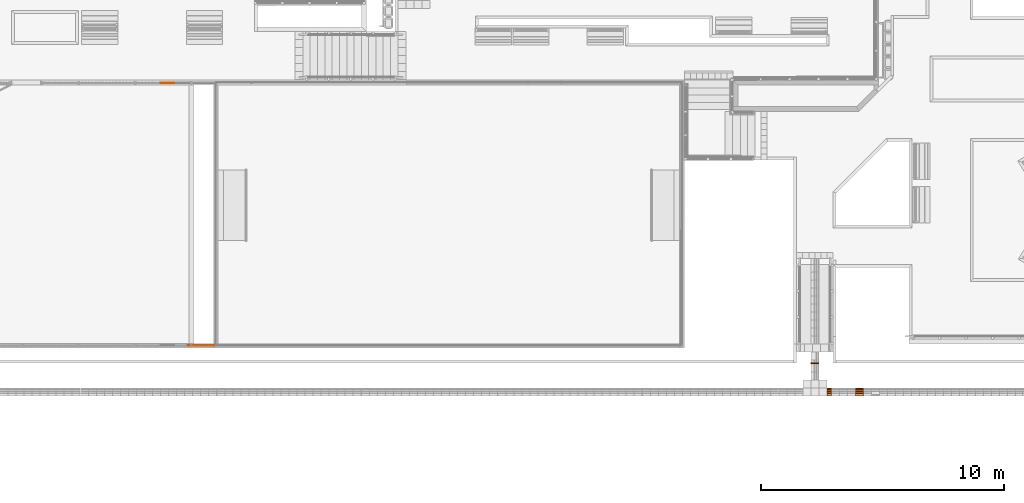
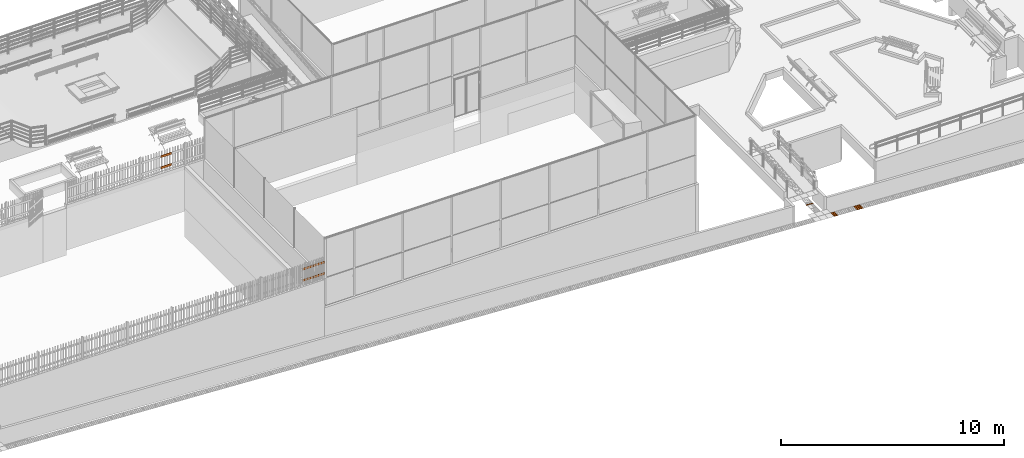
# One storey, part 220 of 237: 9 proxies.
"""IFC2X3 building model written with IfcOpenShell, lengths in millimetres."""

import ifcopenshell
import ifcopenshell.guid

model = None  # the IFC model being written
_history = None  # IfcOwnerHistory: only IFC2X3 demands one
_inside = {}  # id of a spatial element -> (the spatial element, [elements in it])
_under = {}  # id of a project, library or spatial element -> (it, [spatial elements below it])
_declared = {}  # id of a project -> (the project, [libraries it declares])
_typed = {}  # id of a type object -> (the type object, [elements of that type])
_made_of = {}  # id of a material, layer set ... -> (it, [elements and type objects made of it])


def new_model(schema):
    """Start an empty IFC model of exactly this schema.

    Asked for "IFC4X3", IfcOpenShell would pick the latest addendum, in which some entities
    have other attributes; the version numbers below select the first issue.
    IFC2X3 requires an IfcOwnerHistory on every rooted entity: one is made here for all.
    """
    global model, _history
    if schema == "IFC4X3":
        model = ifcopenshell.file(schema_version=(4, 3, 0, 0))
    else:
        model = ifcopenshell.file(schema=schema)
    _inside.clear()
    _under.clear()
    _declared.clear()
    _typed.clear()
    _made_of.clear()
    _history = None
    if model.schema == "IFC2X3":
        org = make("IfcOrganization", Name="unknown")
        user = make(
            "IfcPersonAndOrganization",
            ThePerson=make("IfcPerson", FamilyName="unknown"),
            TheOrganization=org,
        )
        app = make(
            "IfcApplication",
            ApplicationDeveloper=org,
            Version="unknown",
            ApplicationFullName="unknown",
            ApplicationIdentifier="unknown",
        )
        _history = make(
            "IfcOwnerHistory",
            OwningUser=user,
            OwningApplication=app,
            ChangeAction="ADDED",
            CreationDate=0,
        )
    return model


def make(cls, **values):
    """One entity of the class cls with the attributes given. An attribute that is None is left unset."""
    return model.create_entity(
        cls, **{name: value for name, value in values.items() if value is not None}
    )


def entity(cls, *values):
    """Any entity or typed value of the class cls, its attributes in the order of the schema. None: left unset."""
    e = model.create_entity(cls)
    for i, value in enumerate(values):
        if value is not None:
            e[i] = value
    return e


def rooted(cls, **values):
    """An entity with a GlobalId (a new one), such as an element, a storey or a relation."""
    return make(cls, GlobalId=ifcopenshell.guid.new(), OwnerHistory=_history, **values)


def si_unit(unit_type, name, prefix=None):
    """IfcSIUnit, for example si_unit("LENGTHUNIT", "METRE", prefix="MILLI")."""
    return make("IfcSIUnit", UnitType=unit_type, Prefix=prefix, Name=name)


def converted_unit(unit_type, name, factor, base, dimensions=None, offset=None):
    """IfcConversionBasedUnit, such as the inch: factor (a typed value) times the base unit."""
    return make(
        "IfcConversionBasedUnit"
        if offset is None
        else "IfcConversionBasedUnitWithOffset",
        ConversionOffset=offset,
        Dimensions=None
        if dimensions is None
        else entity("IfcDimensionalExponents", *dimensions),
        UnitType=unit_type,
        Name=name,
        ConversionFactor=make(
            "IfcMeasureWithUnit", ValueComponent=factor, UnitComponent=base
        ),
    )


def derived_unit(unit_type, elements):
    """IfcDerivedUnit: a product of units, each with its exponent."""
    return make(
        "IfcDerivedUnit",
        Elements=[
            make("IfcDerivedUnitElement", Unit=unit, Exponent=power)
            for unit, power in elements
        ],
        UnitType=unit_type,
    )


def money_unit(currency):
    """IfcMonetaryUnit."""
    return make("IfcMonetaryUnit", Currency=currency)


def assignment(units):
    """IfcUnitAssignment: the units of a project."""
    return None if units is None else make("IfcUnitAssignment", Units=units)


def point(xyz):
    """IfcCartesianPoint."""
    return None if xyz is None else make("IfcCartesianPoint", Coordinates=xyz)


def direction(xyz):
    """IfcDirection."""
    return None if xyz is None else make("IfcDirection", DirectionRatios=xyz)


def frame(location, z_axis=None, x_axis=None):
    """IfcAxis2Placement3D, a coordinate frame: its origin and axes. An axis left out is left unset."""
    return make(
        "IfcAxis2Placement3D",
        Location=point(location),
        Axis=direction(z_axis),
        RefDirection=direction(x_axis),
    )


def origin_with_axes():
    """The frame at (0, 0, 0) with the z axis (0, 0, 1) and the x axis (1, 0, 0) written out."""
    return frame((0.0, 0.0, 0.0), z_axis=(0.0, 0.0, 1.0), x_axis=(1.0, 0.0, 0.0))


def place(relative_to, where):
    """IfcLocalPlacement: puts the frame where relative to a parent placement (None: the world)."""
    return make(
        "IfcLocalPlacement", PlacementRelTo=relative_to, RelativePlacement=where
    )


def context(
    kind, dimensions, precision=None, world=None, true_north=None, identifier=None
):
    """IfcGeometricRepresentationContext, for example the 3D "Model" context."""
    return make(
        "IfcGeometricRepresentationContext",
        ContextIdentifier=identifier,
        ContextType=kind,
        CoordinateSpaceDimension=dimensions,
        Precision=precision,
        WorldCoordinateSystem=world,
        TrueNorth=true_north,
    )


def subcontext(parent, identifier, kind, view, scale=None):
    """IfcGeometricRepresentationSubContext, for example "Body" below "Model"."""
    return make(
        "IfcGeometricRepresentationSubContext",
        ContextIdentifier=identifier,
        ContextType=kind,
        ParentContext=parent,
        TargetScale=scale,
        TargetView=view,
    )


def project(units=None, contexts=None):
    """IfcProject with its units and contexts."""
    return rooted(
        "IfcProject",
        Name="project",
        RepresentationContexts=contexts,
        UnitsInContext=assignment(units),
    )


def spatial(cls, under=None, at=None, **own):
    """A site, building, storey or space (cls), placed at a placement, below another one or the project."""
    s = rooted(cls, ObjectPlacement=at, **own)
    if under is not None:
        _under.setdefault(under.id(), (under, []))[1].append(s)
    return s


def faces_of(points, faces, orient=None, outer=None):
    """IfcFace entities. A face is a list of loops; a loop is a list of indices into points, from 0.

    orient and outer hold one flag for each loop. By default every Orientation is true, the
    first loop of a face is its IfcFaceOuterBound and the others are IfcFaceBound.
    """
    made = []
    for i, loops in enumerate(faces):
        bounds = []
        for j, loop in enumerate(loops):
            is_outer = j == 0 if outer is None else outer[i][j]
            bounds.append(
                make(
                    "IfcFaceOuterBound" if is_outer else "IfcFaceBound",
                    Bound=make("IfcPolyLoop", Polygon=[points[k] for k in loop]),
                    Orientation=True if orient is None else orient[i][j],
                )
            )
        made.append(make("IfcFace", Bounds=bounds))
    return made


def open_shell(faces, orient=None, outer=None):
    """The faces of one IfcOpenShell. surface_model builds it on its shared points."""
    return ("IfcOpenShell", faces, orient, outer)


def faceted_brep(points, faces, orient=None, outer=None, voids=None):
    """IfcFacetedBrep: a solid bounded by flat faces; with voids (closed shells), ...WithVoids."""
    shared = [point(p) for p in points]
    hull = make("IfcClosedShell", CfsFaces=faces_of(shared, faces, orient, outer))
    if voids is None:
        return make("IfcFacetedBrep", Outer=hull)
    return make(
        "IfcFacetedBrepWithVoids",
        Outer=hull,
        Voids=[
            make(cls, CfsFaces=faces_of(shared, fs, o, b)) for cls, fs, o, b in voids
        ],
    )


def surface_model(cls, points, shells):
    """IfcFaceBasedSurfaceModel or IfcShellBasedSurfaceModel (cls): surfaces that need not close."""
    shared = [point(p) for p in points]
    made = [make(c, CfsFaces=faces_of(shared, fs, o, b)) for c, fs, o, b in shells]
    if cls == "IfcFaceBasedSurfaceModel":
        return make(cls, FbsmFaces=made)
    return make(cls, SbsmBoundary=made)


def shape(context_of_items, identifier, shape_type, items):
    """IfcShapeRepresentation: the items that make up one representation, for example the "Body"."""
    return make(
        "IfcShapeRepresentation",
        ContextOfItems=context_of_items,
        RepresentationIdentifier=identifier,
        RepresentationType=shape_type,
        Items=items,
    )


def made_of(thing, what):
    """Note that an element or type object is made of a material, layer set ...; save() writes the relation."""
    if what is not None:
        _made_of.setdefault(what.id(), (what, []))[1].append(thing)
    return thing


def type_object(cls, material=None, **own):
    """A type object (cls), such as IfcWallType, which elements share."""
    return made_of(rooted(cls, **own), material)


def element(
    cls,
    number,
    at=None,
    inside=None,
    cuts=None,
    type_object=None,
    material=None,
    context=None,
    identifier="Body",
    shape_type=None,
    held_by="IfcProductDefinitionShape",
    body=None,
    shapes=None,
    **own,
):
    """One element of the class cls, such as IfcWall. Its Tag is "e" and its number.

    at: its placement. inside: the storey or other place that contains it. cuts: it is an
    opening in that element (IfcRelVoidsElement). A single representation is given by context,
    identifier, shape_type and body (its items); several are given by shapes. held_by: the class
    of the entity that holds the representations. save() writes the other relations.
    """
    e = rooted(cls, Tag="e%d" % number, ObjectPlacement=at, **own)
    if body is not None:
        shapes = [shape(context, identifier, shape_type, body)]
    if shapes is not None:
        e.Representation = make(held_by, Representations=shapes)
    if inside is not None:
        _inside.setdefault(inside.id(), (inside, []))[1].append(e)
    if cuts is not None:
        rooted(
            "IfcRelVoidsElement", RelatingBuildingElement=cuts, RelatedOpeningElement=e
        )
    if type_object is not None:
        _typed.setdefault(type_object.id(), (type_object, []))[1].append(e)
    return made_of(e, material)


def aggregate(whole, parts):
    """IfcRelAggregates: a whole, such as a stair, and the parts it consists of."""
    return rooted("IfcRelAggregates", RelatingObject=whole, RelatedObjects=parts)


def save(model, path):
    """Write the relations noted so far, then the file.

    IfcRelAggregates (storeys below a building ...), IfcRelContainedInSpatialStructure (elements
    in a storey), IfcRelDefinesByType, IfcRelAssociatesMaterial and IfcRelDeclares: one each for
    every whole, place, type object, material and project.
    """
    for whole, parts in _under.values():
        aggregate(whole, parts)
    for where, things in _inside.values():
        rooted(
            "IfcRelContainedInSpatialStructure",
            RelatedElements=things,
            RelatingStructure=where,
        )
    for kind, things in _typed.values():
        rooted("IfcRelDefinesByType", RelatedObjects=things, RelatingType=kind)
    for what, things in _made_of.values():
        rooted("IfcRelAssociatesMaterial", RelatedObjects=things, RelatingMaterial=what)
    for by, libraries in _declared.values():
        rooted("IfcRelDeclares", RelatingContext=by, RelatedDefinitions=libraries)
    model.write(path)


model = new_model("IFC2X3")

# Units and contexts
model_context = context("Model", 3, precision=0.01, world=origin_with_axes(), true_north=direction((0.0, 1.0)))
body_context = subcontext(model_context, "Body", "Model", "MODEL_VIEW")
ifc_project = project(units=[si_unit("LENGTHUNIT", "METRE", prefix="MILLI"), si_unit("AREAUNIT", "SQUARE_METRE"), si_unit("VOLUMEUNIT", "CUBIC_METRE"), converted_unit("PLANEANGLEUNIT", "DEGREE", entity("IfcPlaneAngleMeasure", 0.0174532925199), si_unit("PLANEANGLEUNIT", "RADIAN"), dimensions=[0, 0, 0, 0, 0, 0, 0]), money_unit("USD"), converted_unit("TIMEUNIT", "Year", entity("IfcTimeMeasure", 31556926.0), si_unit("TIMEUNIT", "SECOND"), dimensions=[0, 0, 1, 0, 0, 0, 0]), si_unit("MASSUNIT", "GRAM", prefix="KILO"), si_unit("THERMODYNAMICTEMPERATUREUNIT", "DEGREE_CELSIUS"), si_unit("LUMINOUSINTENSITYUNIT", "LUMEN"), si_unit("ENERGYUNIT", "JOULE", prefix="MEGA"), derived_unit("THERMALCONDUCTANCEUNIT", [(si_unit("POWERUNIT", "WATT"), 1), (si_unit("LENGTHUNIT", "METRE"), -1), (si_unit("THERMODYNAMICTEMPERATUREUNIT", "KELVIN"), -1)]), derived_unit("SPECIFICHEATCAPACITYUNIT", [(si_unit("ENERGYUNIT", "JOULE"), 1), (si_unit("MASSUNIT", "GRAM", prefix="KILO"), -1), (si_unit("THERMODYNAMICTEMPERATUREUNIT", "KELVIN"), -1)]), derived_unit("MASSDENSITYUNIT", [(si_unit("MASSUNIT", "GRAM", prefix="KILO"), 1), (si_unit("VOLUMEUNIT", "CUBIC_METRE"), -1)])], contexts=[model_context])

# Site, building, storey
site_placement = place(None, origin_with_axes())
site = spatial("IfcSite", under=ifc_project, at=site_placement, Name="Local", CompositionType="ELEMENT")
building_placement = place(site_placement, origin_with_axes())
building = spatial("IfcBuilding", under=site, at=building_placement, Name="Construção", CompositionType="ELEMENT")
storey_placement = place(building_placement, origin_with_axes())
storey = spatial("IfcBuildingStorey", under=building, at=storey_placement, Name="Pavimento Térreo", CompositionType="ELEMENT", Elevation=0.0)

# Proxies
building_element_proxy_type_1 = type_object("IfcBuildingElementProxyType", Name="Piso Direcional 27", PredefinedType="NOTDEFINED")
proxy_1_placement = place(storey_placement, frame((84125.2908196, 12022.9885605, -5339.84149169), z_axis=(0.0, 0.0, 1.0), x_axis=(0.0, -1.0, 0.0)))
element("IfcBuildingElementProxy", 1, at=proxy_1_placement, inside=storey, type_object=building_element_proxy_type_1, Name="Objeto-0055", context=body_context, shape_type="SurfaceModel", body=[
    surface_model("IfcShellBasedSurfaceModel", [(0.0, -46.9837561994, 6.48810385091), (45.3649594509, -46.9837561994, 6.48810385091), (45.3649594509, -41.0504057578, 12.8539432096), (0.0, -41.0504057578, 12.8539432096)], [open_shell([[[0, 1, 2, 3]]])]),
    surface_model("IfcShellBasedSurfaceModel", [(45.3649594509, -153.805759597, -1.28379652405), (45.3649594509, 175.744996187, -18.4971448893), (45.3649594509, 176.44048501, -5.18196283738), (45.3649594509, 154.098060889, -4.01495616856), (45.3649594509, 148.860199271, 2.9343865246), (45.3649594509, 126.51777515, 4.10139319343), (45.3649594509, 120.584424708, -2.26444616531), (45.3649594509, 70.3139704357, 0.361318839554), (45.3649594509, 65.0761088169, 7.31066153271), (45.3649594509, 42.7336846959, 8.47766820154), (45.3649594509, 36.8003342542, 2.1118288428), (45.3649594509, -13.470120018, 4.73759384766), (45.3649594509, -18.7079816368, 11.6869365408), (45.3649594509, -41.0504057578, 12.8539432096), (45.3649594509, -46.9837561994, 6.48810385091), (45.3649594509, -97.2542104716, 9.11386885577), (45.3649594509, -102.49207209, 16.0632115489), (45.3649594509, -124.834496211, 17.2302182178), (45.3649594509, -130.767846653, 10.864378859), (45.3649594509, -153.110270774, 12.0313855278)], [open_shell([[[0, 1, 2, 3, 4, 5, 6, 7, 8, 9, 10, 11, 12, 13, 14, 15, 16, 17, 18, 19]]])]),
    surface_model("IfcShellBasedSurfaceModel", [(0.0, -18.7079816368, 11.6869365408), (45.3649594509, -18.7079816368, 11.6869365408), (45.3649594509, -13.470120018, 4.73759384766), (0.0, -13.470120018, 4.73759384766)], [open_shell([[[0, 1, 2, 3]]])]),
    surface_model("IfcShellBasedSurfaceModel", [(0.0, -102.49207209, 16.0632115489), (45.3649594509, -102.49207209, 16.0632115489), (45.3649594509, -97.2542104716, 9.11386885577), (0.0, -97.2542104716, 9.11386885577)], [open_shell([[[0, 1, 2, 3]]])]),
    surface_model("IfcShellBasedSurfaceModel", [(0.0, 65.0761088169, 7.31066153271), (45.3649594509, 65.0761088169, 7.31066153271), (45.3649594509, 70.3139704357, 0.361318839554), (0.0, 70.3139704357, 0.361318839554)], [open_shell([[[0, 1, 2, 3]]])]),
    surface_model("IfcShellBasedSurfaceModel", [(0.0, 36.8003342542, 2.1118288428), (45.3649594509, 36.8003342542, 2.1118288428), (45.3649594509, 42.7336846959, 8.47766820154), (0.0, 42.7336846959, 8.47766820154)], [open_shell([[[0, 1, 2, 3]]])]),
    surface_model("IfcShellBasedSurfaceModel", [(0.0, -130.767846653, 10.864378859), (45.3649594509, -130.767846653, 10.864378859), (45.3649594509, -124.834496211, 17.2302182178), (0.0, -124.834496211, 17.2302182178)], [open_shell([[[0, 1, 2, 3]]])]),
    surface_model("IfcShellBasedSurfaceModel", [(0.0, 176.44048501, -5.18196283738), (0.0, 154.098060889, -4.01495616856), (45.3649594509, 154.098060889, -4.01495616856), (45.3649594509, 176.44048501, -5.18196283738)], [open_shell([[[0, 1, 2, 3]]])]),
    surface_model("IfcShellBasedSurfaceModel", [(0.0, 120.584424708, -2.26444616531), (45.3649594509, 120.584424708, -2.26444616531), (45.3649594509, 126.51777515, 4.10139319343), (0.0, 126.51777515, 4.10139319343)], [open_shell([[[0, 1, 2, 3]]])]),
    surface_model("IfcShellBasedSurfaceModel", [(0.0, 148.860199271, 2.9343865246), (45.3649594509, 148.860199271, 2.9343865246), (45.3649594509, 154.098060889, -4.01495616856), (0.0, 154.098060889, -4.01495616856)], [open_shell([[[0, 1, 2, 3]]])]),
    surface_model("IfcShellBasedSurfaceModel", [(0.0, 36.8003342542, 2.1118288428), (0.0, -13.470120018, 4.73759384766), (45.3649594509, -13.470120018, 4.73759384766), (45.3649594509, 36.8003342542, 2.1118288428)], [open_shell([[[0, 1, 2, 3]]])]),
    surface_model("IfcShellBasedSurfaceModel", [(0.0, 120.584424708, -2.26444616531), (0.0, 70.3139704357, 0.361318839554), (45.3649594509, 70.3139704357, 0.361318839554), (45.3649594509, 120.584424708, -2.26444616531)], [open_shell([[[0, 1, 2, 3]]])]),
    surface_model("IfcShellBasedSurfaceModel", [(0.0, 148.860199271, 2.9343865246), (0.0, 126.51777515, 4.10139319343), (45.3649594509, 126.51777515, 4.10139319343), (45.3649594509, 148.860199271, 2.9343865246)], [open_shell([[[0, 1, 2, 3]]])]),
    surface_model("IfcShellBasedSurfaceModel", [(0.0, 120.584424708, -2.26444616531), (0.0, 126.51777515, 4.10139319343), (0.0, 148.860199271, 2.9343865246), (0.0, 154.098060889, -4.01495616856), (0.0, 176.44048501, -5.18196283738), (0.0, 175.744996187, -18.4971448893), (0.0, -153.805759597, -1.28379652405), (0.0, -153.110270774, 12.0313855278), (0.0, -130.767846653, 10.864378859), (0.0, -124.834496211, 17.2302182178), (0.0, -102.49207209, 16.0632115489), (0.0, -97.2542104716, 9.11386885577), (0.0, -46.9837561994, 6.48810385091), (0.0, -41.0504057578, 12.8539432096), (0.0, -18.7079816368, 11.6869365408), (0.0, -13.470120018, 4.73759384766), (0.0, 36.8003342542, 2.1118288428), (0.0, 42.7336846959, 8.47766820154), (0.0, 65.0761088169, 7.31066153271), (0.0, 70.3139704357, 0.361318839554)], [open_shell([[[0, 1, 2, 3, 4, 5, 6, 7, 8, 9, 10, 11, 12, 13, 14, 15, 16, 17, 18, 19]]])]),
    surface_model("IfcShellBasedSurfaceModel", [(45.3649594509, -41.0504057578, 12.8539432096), (45.3649594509, -18.7079816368, 11.6869365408), (0.0, -18.7079816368, 11.6869365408), (0.0, -41.0504057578, 12.8539432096)], [open_shell([[[0, 1, 2, 3]]])]),
    surface_model("IfcShellBasedSurfaceModel", [(0.0, -46.9837561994, 6.48810385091), (0.0, -97.2542104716, 9.11386885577), (45.3649594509, -97.2542104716, 9.11386885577), (45.3649594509, -46.9837561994, 6.48810385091)], [open_shell([[[0, 1, 2, 3]]])]),
    surface_model("IfcShellBasedSurfaceModel", [(45.3649594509, 42.7336846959, 8.47766820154), (45.3649594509, 65.0761088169, 7.31066153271), (0.0, 65.0761088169, 7.31066153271), (0.0, 42.7336846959, 8.47766820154)], [open_shell([[[0, 1, 2, 3]]])]),
    surface_model("IfcShellBasedSurfaceModel", [(45.3649594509, -124.834496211, 17.2302182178), (45.3649594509, -102.49207209, 16.0632115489), (0.0, -102.49207209, 16.0632115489), (0.0, -124.834496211, 17.2302182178)], [open_shell([[[0, 1, 2, 3]]])]),
    surface_model("IfcShellBasedSurfaceModel", [(45.3649594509, 175.744996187, -18.4971448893), (0.0, 175.744996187, -18.4971448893), (0.0, 176.44048501, -5.18196283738), (45.3649594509, 176.44048501, -5.18196283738)], [open_shell([[[0, 1, 2, 3]]])]),
    surface_model("IfcShellBasedSurfaceModel", [(45.3649594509, -153.805759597, -1.28379652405), (0.0, -153.805759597, -1.28379652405), (0.0, 175.744996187, -18.4971448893), (45.3649594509, 175.744996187, -18.4971448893)], [open_shell([[[0, 1, 2, 3]]])]),
    surface_model("IfcShellBasedSurfaceModel", [(45.3649594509, -153.110270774, 12.0313855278), (45.3649594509, -130.767846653, 10.864378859), (0.0, -130.767846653, 10.864378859), (0.0, -153.110270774, 12.0313855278)], [open_shell([[[0, 1, 2, 3]]])]),
    surface_model("IfcShellBasedSurfaceModel", [(0.0, -153.805759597, -1.28379652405), (45.3649594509, -153.805759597, -1.28379652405), (45.3649594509, -153.110270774, 12.0313855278), (0.0, -153.110270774, 12.0313855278)], [open_shell([[[0, 1, 2, 3]]])]),
])
proxy_2_placement = place(storey_placement, frame((84817.6977976, 10834.0941893, -5374.27197105), z_axis=(0.0, 0.0, 1.0), x_axis=(-1.0, 0.0, 0.0)))
element("IfcBuildingElementProxy", 2, at=proxy_2_placement, inside=storey, type_object=building_element_proxy_type_1, Name="Objeto-0055", context=body_context, shape_type="SurfaceModel", body=[
    surface_model("IfcShellBasedSurfaceModel", [(-0.196792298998, -47.258225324, 4.02371099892), (185.434149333, -47.258225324, 13.1025786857), (185.108484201, -41.665004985, 19.761286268), (-0.522457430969, -41.665004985, 10.6824185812)], [open_shell([[[0, 1, 2, 3]]])]),
    surface_model("IfcShellBasedSurfaceModel", [(186.085479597, -153.529411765, -0.214836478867), (186.085479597, 176.470588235, -0.214836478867), (185.434149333, 176.470588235, 13.1025786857), (185.434149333, 154.097706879, 13.1025786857), (185.108484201, 148.50448654, 19.761286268), (185.108484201, 126.131605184, 19.761286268), (185.434149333, 120.538384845, 13.1025786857), (185.434149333, 70.1994017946, 13.1025786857), (185.108484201, 64.6061814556, 19.761286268), (185.108484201, 42.2333000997, 19.761286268), (185.434149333, 36.6400797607, 13.1025786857), (185.434149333, -13.6989032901, 13.1025786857), (185.108484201, -19.2921236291, 19.761286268), (185.108484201, -41.665004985, 19.761286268), (185.434149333, -47.258225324, 13.1025786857), (185.434149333, -97.5972083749, 13.1025786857), (185.108484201, -103.190428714, 19.761286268), (185.108484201, -125.56331007, 19.761286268), (185.434149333, -131.156530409, 13.1025786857), (185.434149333, -153.529411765, 13.1025786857)], [open_shell([[[0, 1, 2, 3, 4, 5, 6, 7, 8, 9, 10, 11, 12, 13, 14, 15, 16, 17, 18, 19]]])]),
    surface_model("IfcShellBasedSurfaceModel", [(-0.522457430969, -19.2921236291, 10.6824185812), (185.108484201, -19.2921236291, 19.761286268), (185.434149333, -13.6989032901, 13.1025786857), (-0.196792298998, -13.6989032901, 4.02371099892)], [open_shell([[[0, 1, 2, 3]]])]),
    surface_model("IfcShellBasedSurfaceModel", [(-0.522457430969, -103.190428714, 10.6824185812), (185.108484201, -103.190428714, 19.761286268), (185.434149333, -97.5972083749, 13.1025786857), (-0.196792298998, -97.5972083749, 4.02371099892)], [open_shell([[[0, 1, 2, 3]]])]),
    surface_model("IfcShellBasedSurfaceModel", [(-0.522457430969, 64.6061814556, 10.6824185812), (185.108484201, 64.6061814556, 19.761286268), (185.434149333, 70.1994017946, 13.1025786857), (-0.196792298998, 70.1994017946, 4.02371099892)], [open_shell([[[0, 1, 2, 3]]])]),
    surface_model("IfcShellBasedSurfaceModel", [(-0.196792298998, 36.6400797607, 4.02371099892), (185.434149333, 36.6400797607, 13.1025786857), (185.108484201, 42.2333000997, 19.761286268), (-0.522457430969, 42.2333000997, 10.6824185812)], [open_shell([[[0, 1, 2, 3]]])]),
    surface_model("IfcShellBasedSurfaceModel", [(-0.196792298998, -131.156530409, 4.02371099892), (185.434149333, -131.156530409, 13.1025786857), (185.108484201, -125.56331007, 19.761286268), (-0.522457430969, -125.56331007, 10.6824185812)], [open_shell([[[0, 1, 2, 3]]])]),
    surface_model("IfcShellBasedSurfaceModel", [(-0.196792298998, 176.470588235, 4.02371099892), (-0.196792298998, 154.097706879, 4.02371099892), (185.434149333, 154.097706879, 13.1025786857), (185.434149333, 176.470588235, 13.1025786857)], [open_shell([[[0, 1, 2, 3]]])]),
    surface_model("IfcShellBasedSurfaceModel", [(-0.196792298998, 120.538384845, 4.02371099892), (185.434149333, 120.538384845, 13.1025786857), (185.108484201, 126.131605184, 19.761286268), (-0.522457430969, 126.131605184, 10.6824185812)], [open_shell([[[0, 1, 2, 3]]])]),
    surface_model("IfcShellBasedSurfaceModel", [(-0.522457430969, 148.50448654, 10.6824185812), (185.108484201, 148.50448654, 19.761286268), (185.434149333, 154.097706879, 13.1025786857), (-0.196792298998, 154.097706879, 4.02371099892)], [open_shell([[[0, 1, 2, 3]]])]),
    surface_model("IfcShellBasedSurfaceModel", [(-0.196792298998, 36.6400797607, 4.02371099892), (-0.196792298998, -13.6989032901, 4.02371099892), (185.434149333, -13.6989032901, 13.1025786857), (185.434149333, 36.6400797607, 13.1025786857)], [open_shell([[[0, 1, 2, 3]]])]),
    surface_model("IfcShellBasedSurfaceModel", [(-0.196792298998, 120.538384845, 4.02371099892), (-0.196792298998, 70.1994017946, 4.02371099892), (185.434149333, 70.1994017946, 13.1025786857), (185.434149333, 120.538384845, 13.1025786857)], [open_shell([[[0, 1, 2, 3]]])]),
    surface_model("IfcShellBasedSurfaceModel", [(-0.522457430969, 148.50448654, 10.6824185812), (-0.522457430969, 126.131605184, 10.6824185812), (185.108484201, 126.131605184, 19.761286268), (185.108484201, 148.50448654, 19.761286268)], [open_shell([[[0, 1, 2, 3]]])]),
    surface_model("IfcShellBasedSurfaceModel", [(-0.196792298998, 120.538384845, 4.02371099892), (-0.522457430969, 126.131605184, 10.6824185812), (-0.522457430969, 148.50448654, 10.6824185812), (-0.196792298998, 154.097706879, 4.02371099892), (-0.196792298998, 176.470588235, 4.02371099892), (0.454537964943, 176.470588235, -9.29370416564), (0.454537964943, -153.529411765, -9.29370416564), (-0.196792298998, -153.529411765, 4.02371099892), (-0.196792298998, -131.156530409, 4.02371099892), (-0.522457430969, -125.56331007, 10.6824185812), (-0.522457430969, -103.190428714, 10.6824185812), (-0.196792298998, -97.5972083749, 4.02371099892), (-0.196792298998, -47.258225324, 4.02371099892), (-0.522457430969, -41.665004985, 10.6824185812), (-0.522457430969, -19.2921236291, 10.6824185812), (-0.196792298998, -13.6989032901, 4.02371099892), (-0.196792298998, 36.6400797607, 4.02371099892), (-0.522457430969, 42.2333000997, 10.6824185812), (-0.522457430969, 64.6061814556, 10.6824185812), (-0.196792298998, 70.1994017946, 4.02371099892)], [open_shell([[[0, 1, 2, 3, 4, 5, 6, 7, 8, 9, 10, 11, 12, 13, 14, 15, 16, 17, 18, 19]]])]),
    surface_model("IfcShellBasedSurfaceModel", [(185.108484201, -41.665004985, 19.761286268), (185.108484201, -19.2921236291, 19.761286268), (-0.522457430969, -19.2921236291, 10.6824185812), (-0.522457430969, -41.665004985, 10.6824185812)], [open_shell([[[0, 1, 2, 3]]])]),
    surface_model("IfcShellBasedSurfaceModel", [(-0.196792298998, -47.258225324, 4.02371099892), (-0.196792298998, -97.5972083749, 4.02371099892), (185.434149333, -97.5972083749, 13.1025786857), (185.434149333, -47.258225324, 13.1025786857)], [open_shell([[[0, 1, 2, 3]]])]),
    surface_model("IfcShellBasedSurfaceModel", [(185.108484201, 42.2333000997, 19.761286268), (185.108484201, 64.6061814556, 19.761286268), (-0.522457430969, 64.6061814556, 10.6824185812), (-0.522457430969, 42.2333000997, 10.6824185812)], [open_shell([[[0, 1, 2, 3]]])]),
    surface_model("IfcShellBasedSurfaceModel", [(185.108484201, -125.56331007, 19.761286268), (185.108484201, -103.190428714, 19.761286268), (-0.522457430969, -103.190428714, 10.6824185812), (-0.522457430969, -125.56331007, 10.6824185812)], [open_shell([[[0, 1, 2, 3]]])]),
    surface_model("IfcShellBasedSurfaceModel", [(186.085479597, 176.470588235, -0.214836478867), (0.454537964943, 176.470588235, -9.29370416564), (-0.196792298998, 176.470588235, 4.02371099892), (185.434149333, 176.470588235, 13.1025786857)], [open_shell([[[0, 1, 2, 3]]])]),
    surface_model("IfcShellBasedSurfaceModel", [(186.085479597, -153.529411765, -0.214836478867), (0.454537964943, -153.529411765, -9.29370416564), (0.454537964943, 176.470588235, -9.29370416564), (186.085479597, 176.470588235, -0.214836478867)], [open_shell([[[0, 1, 2, 3]]])]),
    surface_model("IfcShellBasedSurfaceModel", [(185.434149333, -153.529411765, 13.1025786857), (185.434149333, -131.156530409, 13.1025786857), (-0.196792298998, -131.156530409, 4.02371099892), (-0.196792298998, -153.529411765, 4.02371099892)], [open_shell([[[0, 1, 2, 3]]])]),
    surface_model("IfcShellBasedSurfaceModel", [(0.454537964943, -153.529411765, -9.29370416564), (186.085479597, -153.529411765, -0.214836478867), (185.434149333, -153.529411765, 13.1025786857), (-0.196792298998, -153.529411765, 4.02371099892)], [open_shell([[[0, 1, 2, 3]]])]),
])
proxy_3_placement = place(storey_placement, frame((86135.2841095, 10834.0941893, -5441.14836138), z_axis=(0.0, 0.0, 1.0), x_axis=(-1.0, 0.0, 0.0)))
element("IfcBuildingElementProxy", 3, at=proxy_3_placement, inside=storey, type_object=building_element_proxy_type_1, Name="Objeto-0055", context=body_context, shape_type="SurfaceModel", body=[
    surface_model("IfcShellBasedSurfaceModel", [(-0.231897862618, -47.258225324, 4.02184047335), (329.22090162, -47.258225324, 23.01796937), (328.83714144, -41.665004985, 29.6735814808), (-0.615658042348, -41.665004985, 10.6774525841)], [open_shell([[[0, 1, 2, 3]]])]),
    surface_model("IfcShellBasedSurfaceModel", [(329.988421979, -153.529411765, 9.70674514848), (329.988421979, 176.470588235, 9.70674514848), (329.22090162, 176.470588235, 23.01796937), (329.22090162, 154.097706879, 23.01796937), (328.83714144, 148.50448654, 29.6735814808), (328.83714144, 126.131605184, 29.6735814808), (329.22090162, 120.538384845, 23.01796937), (329.22090162, 70.1994017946, 23.01796937), (328.83714144, 64.6061814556, 29.6735814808), (328.83714144, 42.2333000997, 29.6735814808), (329.22090162, 36.6400797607, 23.01796937), (329.22090162, -13.6989032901, 23.01796937), (328.83714144, -19.2921236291, 29.6735814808), (328.83714144, -41.665004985, 29.6735814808), (329.22090162, -47.258225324, 23.01796937), (329.22090162, -97.5972083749, 23.01796937), (328.83714144, -103.190428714, 29.6735814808), (328.83714144, -125.56331007, 29.6735814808), (329.22090162, -131.156530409, 23.01796937), (329.22090162, -153.529411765, 23.01796937)], [open_shell([[[0, 1, 2, 3, 4, 5, 6, 7, 8, 9, 10, 11, 12, 13, 14, 15, 16, 17, 18, 19]]])]),
    surface_model("IfcShellBasedSurfaceModel", [(-0.615658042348, -19.2921236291, 10.6774525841), (328.83714144, -19.2921236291, 29.6735814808), (329.22090162, -13.6989032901, 23.01796937), (-0.231897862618, -13.6989032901, 4.02184047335)], [open_shell([[[0, 1, 2, 3]]])]),
    surface_model("IfcShellBasedSurfaceModel", [(-0.615658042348, -103.190428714, 10.6774525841), (328.83714144, -103.190428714, 29.6735814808), (329.22090162, -97.5972083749, 23.01796937), (-0.231897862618, -97.5972083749, 4.02184047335)], [open_shell([[[0, 1, 2, 3]]])]),
    surface_model("IfcShellBasedSurfaceModel", [(-0.615658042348, 64.6061814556, 10.6774525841), (328.83714144, 64.6061814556, 29.6735814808), (329.22090162, 70.1994017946, 23.01796937), (-0.231897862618, 70.1994017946, 4.02184047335)], [open_shell([[[0, 1, 2, 3]]])]),
    surface_model("IfcShellBasedSurfaceModel", [(-0.231897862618, 36.6400797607, 4.02184047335), (329.22090162, 36.6400797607, 23.01796937), (328.83714144, 42.2333000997, 29.6735814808), (-0.615658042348, 42.2333000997, 10.6774525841)], [open_shell([[[0, 1, 2, 3]]])]),
    surface_model("IfcShellBasedSurfaceModel", [(-0.231897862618, -131.156530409, 4.02184047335), (329.22090162, -131.156530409, 23.01796937), (328.83714144, -125.56331007, 29.6735814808), (-0.615658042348, -125.56331007, 10.6774525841)], [open_shell([[[0, 1, 2, 3]]])]),
    surface_model("IfcShellBasedSurfaceModel", [(-0.231897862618, 176.470588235, 4.02184047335), (-0.231897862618, 154.097706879, 4.02184047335), (329.22090162, 154.097706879, 23.01796937), (329.22090162, 176.470588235, 23.01796937)], [open_shell([[[0, 1, 2, 3]]])]),
    surface_model("IfcShellBasedSurfaceModel", [(-0.231897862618, 120.538384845, 4.02184047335), (329.22090162, 120.538384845, 23.01796937), (328.83714144, 126.131605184, 29.6735814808), (-0.615658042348, 126.131605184, 10.6774525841)], [open_shell([[[0, 1, 2, 3]]])]),
    surface_model("IfcShellBasedSurfaceModel", [(-0.615658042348, 148.50448654, 10.6774525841), (328.83714144, 148.50448654, 29.6735814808), (329.22090162, 154.097706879, 23.01796937), (-0.231897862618, 154.097706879, 4.02184047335)], [open_shell([[[0, 1, 2, 3]]])]),
    surface_model("IfcShellBasedSurfaceModel", [(-0.231897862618, 36.6400797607, 4.02184047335), (-0.231897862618, -13.6989032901, 4.02184047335), (329.22090162, -13.6989032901, 23.01796937), (329.22090162, 36.6400797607, 23.01796937)], [open_shell([[[0, 1, 2, 3]]])]),
    surface_model("IfcShellBasedSurfaceModel", [(-0.231897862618, 120.538384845, 4.02184047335), (-0.231897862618, 70.1994017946, 4.02184047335), (329.22090162, 70.1994017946, 23.01796937), (329.22090162, 120.538384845, 23.01796937)], [open_shell([[[0, 1, 2, 3]]])]),
    surface_model("IfcShellBasedSurfaceModel", [(-0.615658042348, 148.50448654, 10.6774525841), (-0.615658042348, 126.131605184, 10.6774525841), (328.83714144, 126.131605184, 29.6735814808), (328.83714144, 148.50448654, 29.6735814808)], [open_shell([[[0, 1, 2, 3]]])]),
    surface_model("IfcShellBasedSurfaceModel", [(-0.231897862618, 120.538384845, 4.02184047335), (-0.615658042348, 126.131605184, 10.6774525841), (-0.615658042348, 148.50448654, 10.6774525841), (-0.231897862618, 154.097706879, 4.02184047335), (-0.231897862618, 176.470588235, 4.02184047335), (0.535622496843, 176.470588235, -9.28938374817), (0.535622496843, -153.529411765, -9.28938374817), (-0.231897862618, -153.529411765, 4.02184047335), (-0.231897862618, -131.156530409, 4.02184047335), (-0.615658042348, -125.56331007, 10.6774525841), (-0.615658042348, -103.190428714, 10.6774525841), (-0.231897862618, -97.5972083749, 4.02184047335), (-0.231897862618, -47.258225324, 4.02184047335), (-0.615658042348, -41.665004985, 10.6774525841), (-0.615658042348, -19.2921236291, 10.6774525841), (-0.231897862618, -13.6989032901, 4.02184047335), (-0.231897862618, 36.6400797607, 4.02184047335), (-0.615658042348, 42.2333000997, 10.6774525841), (-0.615658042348, 64.6061814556, 10.6774525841), (-0.231897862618, 70.1994017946, 4.02184047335)], [open_shell([[[0, 1, 2, 3, 4, 5, 6, 7, 8, 9, 10, 11, 12, 13, 14, 15, 16, 17, 18, 19]]])]),
    surface_model("IfcShellBasedSurfaceModel", [(328.83714144, -41.665004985, 29.6735814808), (328.83714144, -19.2921236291, 29.6735814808), (-0.615658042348, -19.2921236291, 10.6774525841), (-0.615658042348, -41.665004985, 10.6774525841)], [open_shell([[[0, 1, 2, 3]]])]),
    surface_model("IfcShellBasedSurfaceModel", [(-0.231897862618, -47.258225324, 4.02184047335), (-0.231897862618, -97.5972083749, 4.02184047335), (329.22090162, -97.5972083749, 23.01796937), (329.22090162, -47.258225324, 23.01796937)], [open_shell([[[0, 1, 2, 3]]])]),
    surface_model("IfcShellBasedSurfaceModel", [(328.83714144, 42.2333000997, 29.6735814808), (328.83714144, 64.6061814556, 29.6735814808), (-0.615658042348, 64.6061814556, 10.6774525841), (-0.615658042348, 42.2333000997, 10.6774525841)], [open_shell([[[0, 1, 2, 3]]])]),
    surface_model("IfcShellBasedSurfaceModel", [(328.83714144, -125.56331007, 29.6735814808), (328.83714144, -103.190428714, 29.6735814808), (-0.615658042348, -103.190428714, 10.6774525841), (-0.615658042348, -125.56331007, 10.6774525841)], [open_shell([[[0, 1, 2, 3]]])]),
    surface_model("IfcShellBasedSurfaceModel", [(329.988421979, 176.470588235, 9.70674514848), (0.535622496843, 176.470588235, -9.28938374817), (-0.231897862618, 176.470588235, 4.02184047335), (329.22090162, 176.470588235, 23.01796937)], [open_shell([[[0, 1, 2, 3]]])]),
    surface_model("IfcShellBasedSurfaceModel", [(329.988421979, -153.529411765, 9.70674514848), (0.535622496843, -153.529411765, -9.28938374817), (0.535622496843, 176.470588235, -9.28938374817), (329.988421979, 176.470588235, 9.70674514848)], [open_shell([[[0, 1, 2, 3]]])]),
    surface_model("IfcShellBasedSurfaceModel", [(329.22090162, -153.529411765, 23.01796937), (329.22090162, -131.156530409, 23.01796937), (-0.231897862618, -131.156530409, 4.02184047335), (-0.231897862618, -153.529411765, 4.02184047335)], [open_shell([[[0, 1, 2, 3]]])]),
    surface_model("IfcShellBasedSurfaceModel", [(0.535622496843, -153.529411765, -9.28938374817), (329.988421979, -153.529411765, 9.70674514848), (329.22090162, -153.529411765, 23.01796937), (-0.231897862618, -153.529411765, 4.02184047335)], [open_shell([[[0, 1, 2, 3]]])]),
])
building_element_proxy_type_2 = type_object("IfcBuildingElementProxyType", Name="FALTA", PredefinedType="NOTDEFINED")
proxy_4_placement = place(storey_placement, frame((57193.9609857, 12705.6167027, -1173.86351895), z_axis=(0.0, 0.0, 1.0), x_axis=(1.0, 0.0, 0.0)))
element("IfcBuildingElementProxy", 4, at=proxy_4_placement, inside=storey, type_object=building_element_proxy_type_2, Name="Objeto-0044", context=body_context, shape_type="Brep", body=[
    faceted_brep([(1117.48391965, 23.3007677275, 927.327098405), (1117.48391965, 23.3007677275, 810.191043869), (1676.22587947, 23.3007677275, 810.191043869), (1676.22587947, 23.3007677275, 927.327098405), (1117.48391965, 46.6015354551, 927.327098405), (1117.48391965, 46.6015354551, 810.191043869), (1676.22587947, 46.6015354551, 810.191043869), (1676.22587947, 46.6015354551, 927.327098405)], [[[0, 1, 2, 3]], [[1, 0, 4, 5]], [[2, 1, 5, 6]], [[3, 2, 6, 7]], [[4, 0, 3, 7]], [[5, 4, 7, 6]]]),
])
proxy_5_placement = place(storey_placement, frame((57193.9609857, 12705.6167027, -1173.86351895), z_axis=(0.0, 0.0, 1.0), x_axis=(1.0, 0.0, 0.0)))
element("IfcBuildingElementProxy", 5, at=proxy_5_placement, inside=storey, type_object=building_element_proxy_type_2, Name="Objeto-0044", context=body_context, shape_type="Brep", body=[
    faceted_brep([(1117.48391965, 23.3007677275, 195.226757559), (1676.22587947, 23.3007677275, 195.226757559), (1676.22587947, 23.3007677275, 312.362812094), (1117.48391965, 23.3007677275, 312.362812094), (1117.48391965, 46.6015354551, 195.226757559), (1676.22587947, 46.6015354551, 195.226757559), (1676.22587947, 46.6015354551, 312.362812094), (1117.48391965, 46.6015354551, 312.362812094)], [[[0, 1, 2, 3]], [[1, 0, 4, 5]], [[1, 5, 6, 2]], [[7, 3, 2, 6]], [[4, 0, 3, 7]], [[5, 4, 7, 6]]]),
])
proxy_6_placement = place(storey_placement, frame((59431.6965585, 23580.2435218, -1173.86351895), z_axis=(0.0, 0.0, 1.0), x_axis=(-1.0, 0.0, 0.0)))
element("IfcBuildingElementProxy", 6, at=proxy_6_placement, inside=storey, type_object=building_element_proxy_type_2, Name="Objeto-0044", context=body_context, shape_type="Brep", body=[
    faceted_brep([(1676.22587947, 23.3659780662, 195.226757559), (2234.9678393, 23.3659780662, 195.226757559), (2234.9678393, 23.3659780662, 312.362812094), (1676.22587947, 23.3659780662, 312.362812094), (1676.22587947, 46.7319561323, 195.226757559), (2234.9678393, 46.7319561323, 195.226757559), (2234.9678393, 46.7319561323, 312.362812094), (1676.22587947, 46.7319561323, 312.362812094)], [[[0, 1, 2, 3]], [[1, 0, 4, 5]], [[1, 5, 6, 2]], [[7, 3, 2, 6]], [[4, 0, 3, 7]], [[5, 4, 7, 6]]]),
])
proxy_7_placement = place(storey_placement, frame((57193.9609857, 12705.6167027, -1173.86351895), z_axis=(0.0, 0.0, 1.0), x_axis=(1.0, 0.0, 0.0)))
element("IfcBuildingElementProxy", 7, at=proxy_7_placement, inside=storey, type_object=building_element_proxy_type_2, Name="Objeto-0044", context=body_context, shape_type="Brep", body=[
    faceted_brep([(1676.22587947, 23.3007677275, 195.226757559), (2234.9678393, 23.3007677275, 195.226757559), (2234.9678393, 23.3007677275, 312.362812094), (1676.22587947, 23.3007677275, 312.362812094), (1676.22587947, 46.6015354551, 195.226757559), (2234.9678393, 46.6015354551, 195.226757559), (2234.9678393, 46.6015354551, 312.362812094), (1676.22587947, 46.6015354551, 312.362812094)], [[[0, 1, 2, 3]], [[1, 0, 4, 5]], [[1, 5, 6, 2]], [[7, 3, 2, 6]], [[4, 0, 3, 7]], [[5, 4, 7, 6]]]),
])
proxy_8_placement = place(storey_placement, frame((57193.9609857, 12705.6167027, -1173.86351895), z_axis=(0.0, 0.0, 1.0), x_axis=(1.0, 0.0, 0.0)))
element("IfcBuildingElementProxy", 8, at=proxy_8_placement, inside=storey, type_object=building_element_proxy_type_2, Name="Objeto-0044", context=body_context, shape_type="Brep", body=[
    faceted_brep([(1676.22587947, 23.3007677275, 927.327098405), (1676.22587947, 23.3007677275, 810.191043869), (2234.9678393, 23.3007677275, 810.191043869), (2234.9678393, 23.3007677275, 927.327098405), (1676.22587947, 46.6015354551, 927.327098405), (1676.22587947, 46.6015354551, 810.191043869), (2234.9678393, 46.6015354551, 810.191043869), (2234.9678393, 46.6015354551, 927.327098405)], [[[0, 1, 2, 3]], [[1, 0, 4, 5]], [[2, 1, 5, 6]], [[3, 2, 6, 7]], [[4, 0, 3, 7]], [[5, 4, 7, 6]]]),
])
proxy_9_placement = place(storey_placement, frame((59431.6965585, 23580.2435218, -1173.86351895), z_axis=(0.0, 0.0, 1.0), x_axis=(-1.0, 0.0, 0.0)))
element("IfcBuildingElementProxy", 9, at=proxy_9_placement, inside=storey, type_object=building_element_proxy_type_2, Name="Objeto-0044", context=body_context, shape_type="Brep", body=[
    faceted_brep([(1676.22587947, 23.3659780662, 927.327098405), (1676.22587947, 23.3659780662, 810.191043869), (2234.9678393, 23.3659780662, 810.191043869), (2234.9678393, 23.3659780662, 927.327098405), (1676.22587947, 46.7319561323, 927.327098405), (1676.22587947, 46.7319561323, 810.191043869), (2234.9678393, 46.7319561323, 810.191043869), (2234.9678393, 46.7319561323, 927.327098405)], [[[0, 1, 2, 3]], [[1, 0, 4, 5]], [[2, 1, 5, 6]], [[3, 2, 6, 7]], [[4, 0, 3, 7]], [[5, 4, 7, 6]]]),
])

save(model, "model.ifc")
